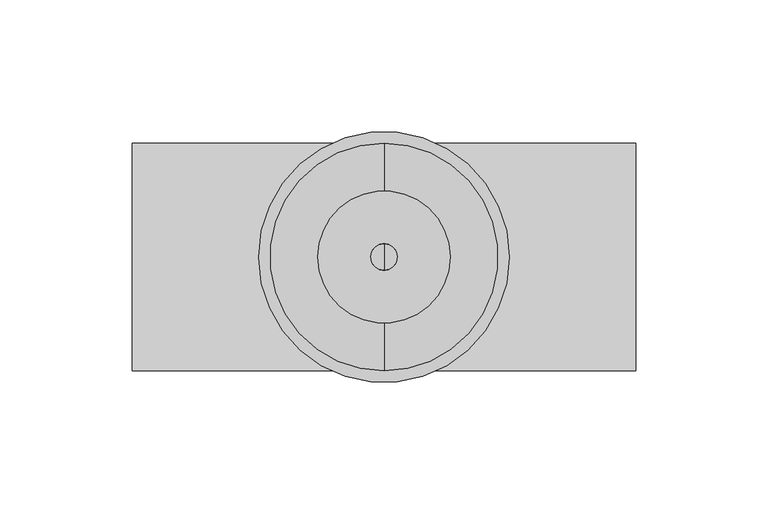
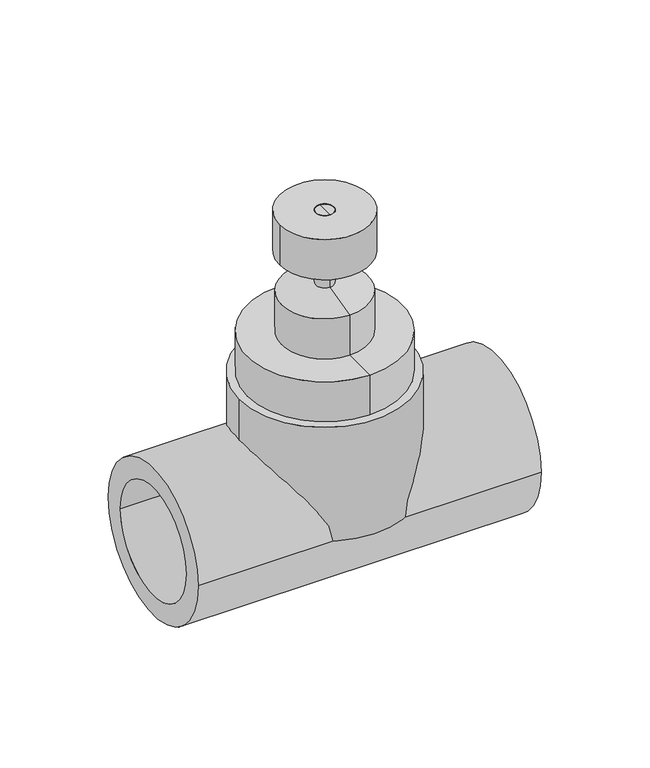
"""IFC4 building model written with IfcOpenShell, lengths in millimetres: valve geometry, EGB_VASEN_ PPR_Valvula de corte con volante WXR830 : Válvula de corte con volante WXR830."""

from ifc_helpers import new_model, si_unit, point, frame, origin, origin_with_axes, origin_2d, place, context, project, spatial, polyline, circle_curve, trimmed, segment, composite_curve, outline, extrude, source, transform, mapped, element, save
from ifc_brep_helpers import plane_surface, cylinder_surface, revolved_surface, advanced_brep


def valve_18a01438(model_context):
    return source(origin(), model_context, "Body", "SolidModel", [
        extrude(outline(composite_curve([segment(trimmed(circle_curve(origin_2d(), 47.3), [point((-47.3, 0.0))], [point((47.3, 0.0))], False, "CARTESIAN"), True, "CONTINUOUS"), segment(trimmed(circle_curve(origin_2d(), 47.3), [point((47.3, 0.0))], [point((-47.3, 0.0))], False, "CARTESIAN"), True, "CONTINUOUS")], self_intersect=False)), origin_with_axes(), (0.0, 0.0, 1.0), 66.6),
        extrude(outline(composite_curve([segment(trimmed(circle_curve(origin_2d(), 43.0), [point((-43.0, 0.0))], [point((43.0, 0.0))], False, "CARTESIAN"), True, "CONTINUOUS"), segment(trimmed(circle_curve(origin_2d(), 43.0), [point((43.0, 0.0))], [point((-43.0, 0.0))], False, "CARTESIAN"), True, "CONTINUOUS")], self_intersect=False), holes=[composite_curve([segment(trimmed(circle_curve(origin_2d(), 31.5), [point((-31.5, 0.0))], [point((31.5, 0.0))], True, "CARTESIAN"), True, "CONTINUOUS"), segment(trimmed(circle_curve(origin_2d(), 31.5), [point((31.5, 0.0))], [point((-31.5, 0.0))], True, "CARTESIAN"), True, "CONTINUOUS")], self_intersect=False)]), frame((-95.0, 0.0, 0.0), z_axis=(1.0, 0.0, 0.0), x_axis=(0.0, 1.0, 0.0)), (0.0, 0.0, 1.0), 190.0),
        extrude(outline(composite_curve([segment(trimmed(circle_curve(origin_2d(), 25.0), [point((25.0, 0.0))], [point((-25.0, 0.0))], False, "CARTESIAN"), True, "CONTINUOUS"), segment(trimmed(circle_curve(origin_2d(), 25.0), [point((-25.0, 0.0))], [point((25.0, 0.0))], False, "CARTESIAN"), True, "CONTINUOUS")], self_intersect=False), holes=[composite_curve([segment(trimmed(circle_curve(origin_2d(), 5.0), [point((5.0, 0.0))], [point((-5.0, 0.0))], True, "CARTESIAN"), True, "CONTINUOUS"), segment(trimmed(circle_curve(origin_2d(), 5.0), [point((-5.0, 0.0))], [point((5.0, 0.0))], True, "CARTESIAN"), True, "CONTINUOUS")], self_intersect=False)]), frame((0.0, 0.0, 137.4), z_axis=(0.0, 0.0, 1.0), x_axis=(1.0, 0.0, 0.0)), (0.0, 0.0, 1.0), 23.6),
        advanced_brep(
        [(0.0, -24.0, 90.2), (0.0, 24.0, 90.2), (0.0, 43.0, 90.2), (0.0, -43.0, 90.2), (0.0, -24.0, 113.8), (0.0, 24.0, 113.8), (0.0, -5.0, 118.5272839), (0.0, 5.0, 118.5272839), (0.0, -5.0, 161.0), (0.0, 5.0, 161.0), (0.0, 0.0, 161.0), (0.0, -43.0, 66.6), (0.0, 43.0, 66.6), (0.0, 0.0, 66.6)],
        [
            (0, 1, circle_curve(frame((0.0, 0.0, 90.2), z_axis=(0.0, 0.0, -1.0), x_axis=(0.0, 1.0, 0.0)), 24.0)),
            (1, 2),
            (2, 3, circle_curve(frame((0.0, 0.0, 90.2), z_axis=(0.0, 0.0, 1.0), x_axis=(0.0, 1.0, 0.0)), 43.0)),
            (3, 0),
            (1, 0, circle_curve(frame((0.0, 0.0, 90.2), z_axis=(0.0, 0.0, -1.0), x_axis=(0.0, 1.0, 0.0)), 24.0)),
            (3, 2, circle_curve(frame((0.0, 0.0, 90.2), z_axis=(0.0, 0.0, 1.0), x_axis=(0.0, 1.0, 0.0)), 43.0)),
            (4, 5, circle_curve(frame((0.0, 0.0, 113.8), z_axis=(0.0, 0.0, -1.0), x_axis=(0.0, 1.0, 0.0)), 24.0)),
            (5, 1),
            (0, 4),
            (5, 4, circle_curve(frame((0.0, 0.0, 113.8), z_axis=(0.0, 0.0, -1.0), x_axis=(0.0, 1.0, 0.0)), 24.0)),
            (6, 7, circle_curve(frame((0.0, 0.0, 118.5272839), z_axis=(0.0, 0.0, -1.0), x_axis=(0.0, 1.0, 0.0)), 5.0)),
            (7, 5),
            (4, 6),
            (7, 6, circle_curve(frame((0.0, 0.0, 118.5272839), z_axis=(0.0, 0.0, -1.0), x_axis=(0.0, 1.0, 0.0)), 5.0)),
            (8, 9, circle_curve(frame((0.0, 0.0, 161.0), z_axis=(0.0, 0.0, -1.0), x_axis=(0.0, 1.0, 0.0)), 5.0)),
            (9, 7),
            (6, 8),
            (9, 8, circle_curve(frame((0.0, 0.0, 161.0), z_axis=(0.0, 0.0, -1.0), x_axis=(0.0, 1.0, 0.0)), 5.0)),
            (10, 9),
            (8, 10),
            (11, 12, circle_curve(frame((0.0, 0.0, 66.6), z_axis=(0.0, 0.0, -1.0), x_axis=(0.0, 1.0, 0.0)), 43.0)),
            (12, 13),
            (13, 11),
            (12, 11, circle_curve(frame((0.0, 0.0, 66.6), z_axis=(0.0, 0.0, -1.0), x_axis=(0.0, 1.0, 0.0)), 43.0)),
            (2, 12),
            (11, 3),
        ],
        [
            plane_surface(frame((0.0, 0.0, 90.2), z_axis=(0.0, 0.0, 1.0), x_axis=(0.0, 1.0, 0.0))),
            cylinder_surface(frame((0.0, 0.0, 176.0), z_axis=(0.0, 0.0, 1.0), x_axis=(0.0, 1.0, 0.0)), 24.0),
            revolved_surface(polyline([(0.0, 24.0, 113.8), (0.0, 5.0, 118.5272839)]), (0.0, 0.0, 176.0), (0.0, 0.0, 1.0)),
            cylinder_surface(frame((0.0, 0.0, 176.0), z_axis=(0.0, 0.0, 1.0), x_axis=(0.0, 1.0, 0.0)), 5.0),
            plane_surface(frame((0.0, 0.0, 161.0), z_axis=(0.0, 0.0, 1.0), x_axis=(0.0, 1.0, 0.0))),
            plane_surface(frame((0.0, 0.0, 66.6), z_axis=(0.0, 0.0, -1.0), x_axis=(0.0, 1.0, 0.0))),
            cylinder_surface(frame((0.0, 0.0, 176.0), z_axis=(0.0, 0.0, 1.0), x_axis=(0.0, 1.0, 0.0)), 43.0),
        ],
        [
            (0, [[1, 2, 3, 4]]),
            (0, [[5, -4, 6, -2]]),
            (1, [[7, 8, -1, 9]]),
            (1, [[10, -9, -5, -8]]),
            (2, [[11, 12, -7, 13]]),
            (2, [[14, -13, -10, -12]]),
            (3, [[15, 16, -11, 17]]),
            (3, [[18, -17, -14, -16]]),
            (4, [[19, -15, 20]]),
            (4, [[-20, -18, -19]]),
            (5, [[21, 22, 23]]),
            (5, [[24, -23, -22]]),
            (6, [[-3, 25, -21, 26]]),
            (6, [[-6, -26, -24, -25]]),
        ],
    ),
    ])


if __name__ == "__main__":
    model = new_model("IFC4")
    model_context = context("Model", 3, world=origin())
    ifc_project = project(units=[si_unit("LENGTHUNIT", "METRE", prefix="MILLI")], contexts=[model_context])
    site = spatial("IfcSite", under=ifc_project)
    building = spatial("IfcBuilding", under=site)
    placement = place(None, origin())
    valve_shape = valve_18a01438(model_context)
    element("IfcValve", 1, ObjectType="EGB_VASEN_ PPR_Valvula de corte con volante WXR830 : Válvula de corte con volante WXR830", at=placement, inside=building, context=model_context, shape_type="MappedRepresentation", body=[
        mapped(valve_shape, transform((0.0, 0.0, 0.0), x_axis=(1.0, 0.0, 0.0), y_axis=(0.0, 1.0, 0.0), z_axis=(0.0, 0.0, 1.0))),
    ])
    save(model, "model.ifc")
